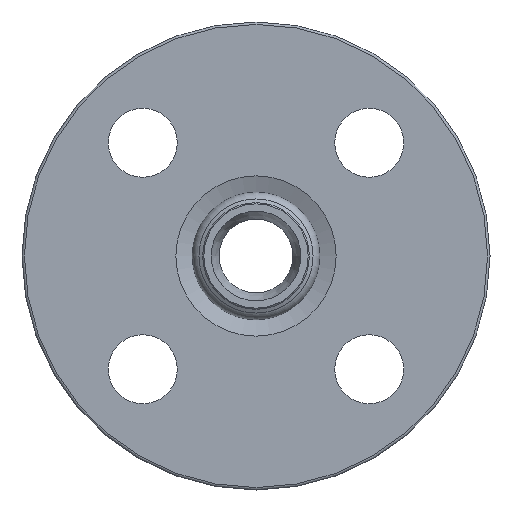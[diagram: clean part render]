
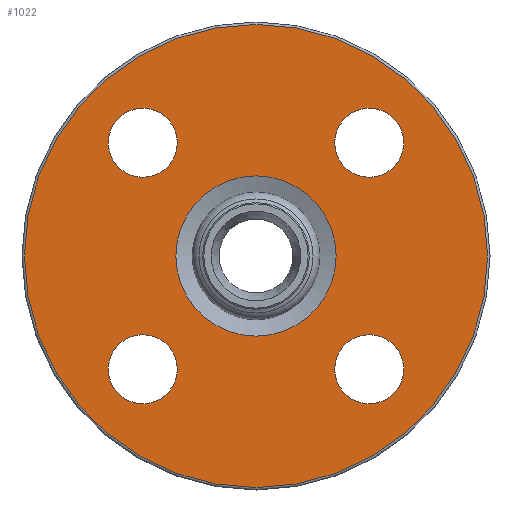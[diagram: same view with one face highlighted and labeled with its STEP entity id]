
A CAD part, left-side view. The second image highlights one B-rep face of the part: STEP entity #1022.
In plain terms, the highlighted planar face has unit normal (-1, 0, 0) as drawn and (0, 0, 1) by its records, which use the part's own axes.
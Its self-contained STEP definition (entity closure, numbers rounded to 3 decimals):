
#763=CARTESIAN_POINT('',(0.0,-16.259,0.));
#764=VERTEX_POINT('',#763);
#765=CARTESIAN_POINT('',(0.0,0.0,0.0));
#766=DIRECTION('',(0.0,0.0,-1.0));
#767=DIRECTION('',(0.0,-1.0,0.0));
#768=AXIS2_PLACEMENT_3D('',#765,#766,#767);
#769=CIRCLE('',#768,16.259);
#770=EDGE_CURVE('',#764,#764,#769,.T.);
#952=CARTESIAN_POINT('',(47.0,0.,0.0));
#953=VERTEX_POINT('',#952);
#954=CARTESIAN_POINT('',(0.0,0.0,0.0));
#955=DIRECTION('',(0.0,0.0,-1.0));
#956=DIRECTION('',(-1.0,0.0,0.0));
#957=AXIS2_PLACEMENT_3D('',#954,#955,#956);
#958=CIRCLE('',#957,47.0);
#959=EDGE_CURVE('',#953,#953,#958,.T.);
#967=CARTESIAN_POINT('',(0.0,0.0,0.0));
#968=DIRECTION('',(0.0,0.0,-1.0));
#969=DIRECTION('',(-1.0,0.0,0.0));
#970=AXIS2_PLACEMENT_3D('',#967,#968,#969);
#971=PLANE('',#970);
#972=ORIENTED_EDGE('',*,*,#959,.F.);
#973=EDGE_LOOP('',(#972));
#974=FACE_OUTER_BOUND('',#973,.T.);
#975=ORIENTED_EDGE('',*,*,#770,.T.);
#976=EDGE_LOOP('',(#975));
#977=FACE_BOUND('',#976,.T.);
#978=CARTESIAN_POINT('',(-15.981,22.981,0.0));
#979=VERTEX_POINT('',#978);
#980=CARTESIAN_POINT('',(-22.981,22.981,0.0));
#981=DIRECTION('',(0.0,0.0,-1.0));
#982=DIRECTION('',(-1.0,0.0,0.0));
#983=AXIS2_PLACEMENT_3D('',#980,#981,#982);
#984=CIRCLE('',#983,7.);
#985=EDGE_CURVE('',#979,#979,#984,.T.);
#986=ORIENTED_EDGE('',*,*,#985,.T.);
#987=EDGE_LOOP('',(#986));
#988=FACE_BOUND('',#987,.T.);
#989=CARTESIAN_POINT('',(29.981,22.981,0.0));
#990=VERTEX_POINT('',#989);
#991=CARTESIAN_POINT('',(22.981,22.981,0.0));
#992=DIRECTION('',(0.0,0.0,-1.0));
#993=DIRECTION('',(-1.0,0.0,0.0));
#994=AXIS2_PLACEMENT_3D('',#991,#992,#993);
#995=CIRCLE('',#994,7.);
#996=EDGE_CURVE('',#990,#990,#995,.T.);
#997=ORIENTED_EDGE('',*,*,#996,.T.);
#998=EDGE_LOOP('',(#997));
#999=FACE_BOUND('',#998,.T.);
#1000=CARTESIAN_POINT('',(29.981,-22.981,0.0));
#1001=VERTEX_POINT('',#1000);
#1002=CARTESIAN_POINT('',(22.981,-22.981,0.0));
#1003=DIRECTION('',(0.0,0.0,-1.0));
#1004=DIRECTION('',(-1.0,0.0,0.0));
#1005=AXIS2_PLACEMENT_3D('',#1002,#1003,#1004);
#1006=CIRCLE('',#1005,7.);
#1007=EDGE_CURVE('',#1001,#1001,#1006,.T.);
#1008=ORIENTED_EDGE('',*,*,#1007,.T.);
#1009=EDGE_LOOP('',(#1008));
#1010=FACE_BOUND('',#1009,.T.);
#1011=CARTESIAN_POINT('',(-15.981,-22.981,0.0));
#1012=VERTEX_POINT('',#1011);
#1013=CARTESIAN_POINT('',(-22.981,-22.981,0.0));
#1014=DIRECTION('',(0.0,0.0,-1.0));
#1015=DIRECTION('',(-1.0,0.0,0.0));
#1016=AXIS2_PLACEMENT_3D('',#1013,#1014,#1015);
#1017=CIRCLE('',#1016,7.);
#1018=EDGE_CURVE('',#1012,#1012,#1017,.T.);
#1019=ORIENTED_EDGE('',*,*,#1018,.T.);
#1020=EDGE_LOOP('',(#1019));
#1021=FACE_BOUND('',#1020,.T.);
#1022=ADVANCED_FACE('',(#974,#977,#988,#999,#1010,#1021),#971,.F.);
